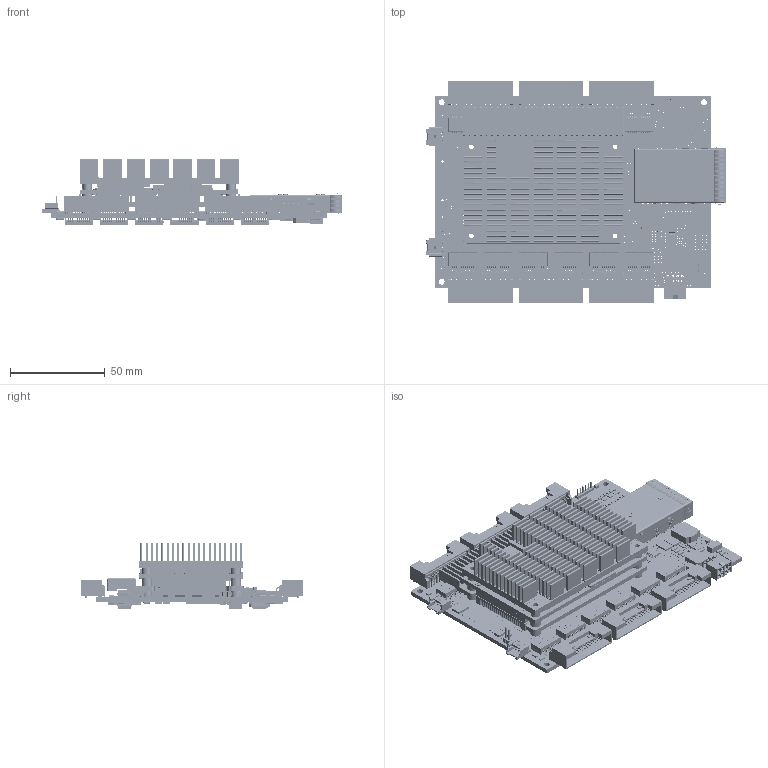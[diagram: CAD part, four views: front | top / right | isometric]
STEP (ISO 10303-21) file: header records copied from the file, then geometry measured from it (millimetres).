
FILE_DESCRIPTION((''),'2;1');
FILE_NAME('EPSM_24G2X-HSA_PLUS_10GX_HSA_ASM','2019-07-30T12:45:31',('Admin'),(''),'CREO PARAMETRIC BY PTC INC, 2016390','CREO PARAMETRIC BY PTC INC, 2016390','');
FILE_SCHEMA(('CONFIG_CONTROL_DESIGN'));
Products named in the file (109): BOARD; 901200762_1; HDR_TH_P2_54_H10_P1X2_VT_ASM; _IPL1-104-01-D-RA-K_HEADER; _T-1S64-01-04-D-RA; IPL1-104-01-L-D-RA-K_ASM; CON_SAM_TH_2P54_8L_ASM; _TMM-106-03-T-S_BODY; _TMM-106-03-T-S_PINS1; _TMM-106-03-T-S_PINS2; TMM-106-03-T-S_ASM; SIP6_2M_ASM; 353630360_2; CNT_MOL_35363-0360_P3_ASM; QFP40P2600X2600X120-290_224_1; QFP40P2600X2600X120-290_224_2; QFP40P2600X2600X120-290_224_ASM; FIDUCIAL; RPEXBN8V; CAP0805; PRODUCT_1_0-407114; MXA20A_ASM; IND-CMS1_1; IND-CMS1_2; IND-CMS1_ASM; DO-214AAMAC; DO-214AAMCC; FB1206; PRODUCT_1_0-407115; S-PVQFN-N14_ASM; MH-PAD250DRIL125PL; S32B-PUDSS-1; CNT_2X16_2P_H8_5_P32_RA_ASM; DOCUMENT_A-407116; CAP_0402_ASM; BREP_1; BREP_2; BREP_3; BREP_4; DOCUMENT_A-407117_ASM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
Assembly tree (1165 placements, depth 6):
  EPSM_24G2X-HSA_PLUS_10GX_HSA_ASM
    7143130-2_EPSM_10GX-FFCARRIER_1_ASM
      BOARD
      COMPONENTS_ASM
        HDR_TH_P2_54_H10_P1X2_VT_ASM
          901200762_1
        CON_SAM_TH_2P54_8L_ASM
          IPL1-104-01-L-D-RA-K_ASM
            _IPL1-104-01-D-RA-K_HEADER
            _T-1S64-01-04-D-RA
        SIP6_2M_ASM
          TMM-106-03-T-S_ASM
            _TMM-106-03-T-S_BODY
            _TMM-106-03-T-S_PINS1
            _TMM-106-03-T-S_PINS2
        CNT_MOL_35363-0360_P3_ASM  x2
          353630360_2
        QFP40P2600X2600X120-290_224_ASM
          QFP40P2600X2600X120-290_224_1
          QFP40P2600X2600X120-290_224_2
        FIDUCIAL  x5
        RPEXBN8V  x13
        CAP0805  x10
        MXA20A_ASM
          PRODUCT_1_0-407114
        IND-CMS1_ASM  x2
          IND-CMS1_1
          IND-CMS1_2
        DO-214AAMAC
        DO-214AAMCC  x3
        FB1206  x4
        S-PVQFN-N14_ASM
          PRODUCT_1_0-407115
        MH-PAD250DRIL125PL
        CNT_2X16_2P_H8_5_P32_RA_ASM  x6
          S32B-PUDSS-1
        CAP_0402_ASM  x234
          DOCUMENT_A-407116
        RES_0402_ASM  x168
          DOCUMENT_A-407117_ASM
            BREP_1
            BREP_2
            BREP_3
            BREP_4
        CNSFP_PLUS_CAGE_1X2_CUST_ASM
          C-2007263-1_1
        RHB32_3P45X3P45_ASM
          PRODUCT_1_0-407119
        OSC_5X3_33M
        SM0603LED_AC
        TFR15X7-24_ASM  x24
          1
        IND_2X2_5_H1_2_P2  x4
        CAP1210  x2
        CAP_0603-H0_9_ASM  x30
          DOCUMENT_A-407123
        LED1_6SQ-HT0_7_P4  x26
        PSON65P280X300X133-9N  x2
        QFP14X14-100-63M
        RES_1206_EIA  x2
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Bounding box: 159.08 x 116.95 x 35.38 mm (x, y, z)
Volume: 120408 mm3; surface area: 172712.8 mm2
Topology: 1351 solids, 3553 shells, 58858 faces, 159682 edges, 103999 vertices
Faces by surface type: plane 35229, cylinder 20038, sphere 2478, extrusion 1081, torus 22, bspline 10
Entity records: 573787 total; most frequent: CARTESIAN_POINT 101352, DIRECTION 100738, ORIENTED_EDGE 93623, EDGE_CURVE 47216, AXIS2_PLACEMENT_3D 35332, VERTEX_POINT 31410, VECTOR 30074, LINE 29982
